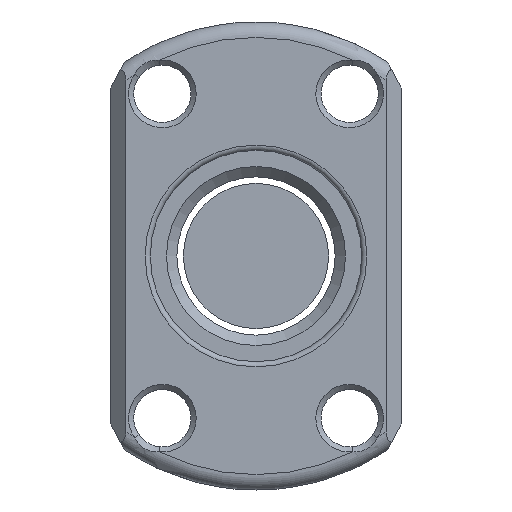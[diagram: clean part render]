
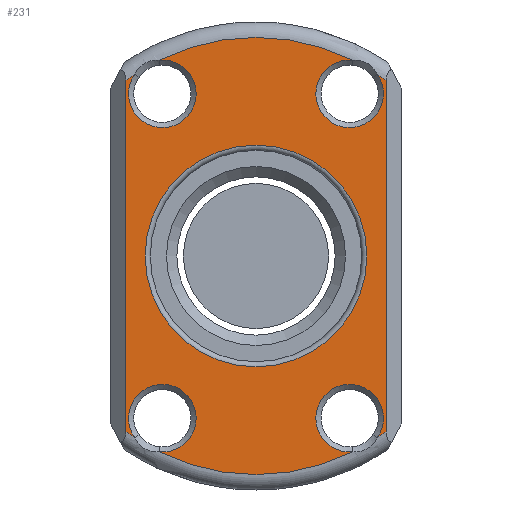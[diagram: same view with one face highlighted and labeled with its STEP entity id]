
A CAD part, front view. The second image highlights one B-rep face of the part: STEP entity #231.
In plain terms, the highlighted planar face has unit normal (0, -1, 0).
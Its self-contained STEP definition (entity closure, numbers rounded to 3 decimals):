
#100=LINE('',#1261,#126);
#101=LINE('',#1273,#127);
#126=VECTOR('',#1045,1.);
#127=VECTOR('',#1056,1.);
#175=PLANE('',#930);
#231=ADVANCED_FACE('',(#296,#297),#175,.T.);
#296=FACE_BOUND('',#335,.T.);
#297=FACE_BOUND('',#336,.T.);
#335=EDGE_LOOP('',(#414));
#336=EDGE_LOOP('',(#415,#416,#417,#418,#419,#420,#421,#422,#423,#424,#425,
#426));
#414=ORIENTED_EDGE('',*,*,#742,.T.);
#415=ORIENTED_EDGE('',*,*,#743,.T.);
#416=ORIENTED_EDGE('',*,*,#744,.T.);
#417=ORIENTED_EDGE('',*,*,#745,.T.);
#418=ORIENTED_EDGE('',*,*,#746,.T.);
#419=ORIENTED_EDGE('',*,*,#747,.T.);
#420=ORIENTED_EDGE('',*,*,#748,.T.);
#421=ORIENTED_EDGE('',*,*,#749,.T.);
#422=ORIENTED_EDGE('',*,*,#750,.T.);
#423=ORIENTED_EDGE('',*,*,#751,.T.);
#424=ORIENTED_EDGE('',*,*,#752,.T.);
#425=ORIENTED_EDGE('',*,*,#753,.T.);
#426=ORIENTED_EDGE('',*,*,#754,.T.);
#660=VERTEX_POINT('',#1253);
#661=VERTEX_POINT('',#1255);
#662=VERTEX_POINT('',#1256);
#663=VERTEX_POINT('',#1258);
#664=VERTEX_POINT('',#1260);
#665=VERTEX_POINT('',#1262);
#666=VERTEX_POINT('',#1264);
#667=VERTEX_POINT('',#1266);
#668=VERTEX_POINT('',#1268);
#669=VERTEX_POINT('',#1270);
#670=VERTEX_POINT('',#1272);
#671=VERTEX_POINT('',#1274);
#672=VERTEX_POINT('',#1276);
#742=EDGE_CURVE('',#660,#660,#864,.T.);
#743=EDGE_CURVE('',#661,#662,#865,.T.);
#744=EDGE_CURVE('',#662,#663,#866,.T.);
#745=EDGE_CURVE('',#663,#664,#867,.T.);
#746=EDGE_CURVE('',#664,#665,#100,.T.);
#747=EDGE_CURVE('',#665,#666,#868,.T.);
#748=EDGE_CURVE('',#666,#667,#869,.T.);
#749=EDGE_CURVE('',#667,#668,#870,.T.);
#750=EDGE_CURVE('',#668,#669,#871,.T.);
#751=EDGE_CURVE('',#669,#670,#872,.T.);
#752=EDGE_CURVE('',#670,#671,#101,.T.);
#753=EDGE_CURVE('',#671,#672,#873,.T.);
#754=EDGE_CURVE('',#672,#661,#874,.T.);
#864=CIRCLE('',#919,10.65);
#865=CIRCLE('',#920,21.);
#866=CIRCLE('',#921,3.25);
#867=CIRCLE('',#922,21.);
#868=CIRCLE('',#923,21.);
#869=CIRCLE('',#924,3.25);
#870=CIRCLE('',#925,21.);
#871=CIRCLE('',#926,3.25);
#872=CIRCLE('',#927,21.);
#873=CIRCLE('',#928,21.);
#874=CIRCLE('',#929,3.25);
#919=AXIS2_PLACEMENT_3D('',#1252,#1037,#1038);
#920=AXIS2_PLACEMENT_3D('',#1254,#1039,#1040);
#921=AXIS2_PLACEMENT_3D('',#1257,#1041,#1042);
#922=AXIS2_PLACEMENT_3D('',#1259,#1043,#1044);
#923=AXIS2_PLACEMENT_3D('',#1263,#1046,#1047);
#924=AXIS2_PLACEMENT_3D('',#1265,#1048,#1049);
#925=AXIS2_PLACEMENT_3D('',#1267,#1050,#1051);
#926=AXIS2_PLACEMENT_3D('',#1269,#1052,#1053);
#927=AXIS2_PLACEMENT_3D('',#1271,#1054,#1055);
#928=AXIS2_PLACEMENT_3D('',#1275,#1057,#1058);
#929=AXIS2_PLACEMENT_3D('',#1277,#1059,#1060);
#930=AXIS2_PLACEMENT_3D('',#1278,#1061,#1062);
#1037=DIRECTION('',(0.,1.,0.));
#1038=DIRECTION('',(0.,0.,-1.));
#1039=DIRECTION('',(0.,-1.,0.));
#1040=DIRECTION('',(0.,0.,-1.));
#1041=DIRECTION('',(0.,1.,0.));
#1042=DIRECTION('',(0.,0.,-1.));
#1043=DIRECTION('',(0.,-1.,0.));
#1044=DIRECTION('',(0.,0.,-1.));
#1045=DIRECTION('',(0.,0.,1.));
#1046=DIRECTION('',(0.,-1.,0.));
#1047=DIRECTION('',(0.,0.,-1.));
#1048=DIRECTION('',(0.,1.,0.));
#1049=DIRECTION('',(0.,0.,-1.));
#1050=DIRECTION('',(0.,-1.,0.));
#1051=DIRECTION('',(0.,0.,-1.));
#1052=DIRECTION('',(0.,1.,0.));
#1053=DIRECTION('',(0.,0.,-1.));
#1054=DIRECTION('',(0.,-1.,0.));
#1055=DIRECTION('',(0.,0.,-1.));
#1056=DIRECTION('',(0.,0.,-1.));
#1057=DIRECTION('',(0.,-1.,0.));
#1058=DIRECTION('',(0.,0.,-1.));
#1059=DIRECTION('',(0.,1.,0.));
#1060=DIRECTION('',(0.,0.,-1.));
#1061=DIRECTION('',(0.,-1.,0.));
#1062=DIRECTION('',(0.,0.,-1.));
#1252=CARTESIAN_POINT('',(0.,0.,0.));
#1253=CARTESIAN_POINT('',(0.,0.,-10.65));
#1254=CARTESIAN_POINT('',(0.,0.,0.));
#1255=CARTESIAN_POINT('',(-9.31,0.,-18.824));
#1256=CARTESIAN_POINT('',(9.31,0.,-18.824));
#1257=CARTESIAN_POINT('',(9.,0.,-15.588));
#1258=CARTESIAN_POINT('',(11.647,0.,-17.474));
#1259=CARTESIAN_POINT('',(0.,0.,0.));
#1260=CARTESIAN_POINT('',(12.5,0.,-16.875));
#1261=CARTESIAN_POINT('',(12.5,0.,15.652));
#1262=CARTESIAN_POINT('',(12.5,0.,16.875));
#1263=CARTESIAN_POINT('',(0.,0.,0.));
#1264=CARTESIAN_POINT('',(11.647,0.,17.474));
#1265=CARTESIAN_POINT('',(9.,0.,15.588));
#1266=CARTESIAN_POINT('',(9.31,0.,18.824));
#1267=CARTESIAN_POINT('',(0.,0.,0.));
#1268=CARTESIAN_POINT('',(-9.31,0.,18.824));
#1269=CARTESIAN_POINT('',(-9.,0.,15.588));
#1270=CARTESIAN_POINT('',(-11.647,0.,17.474));
#1271=CARTESIAN_POINT('',(0.,0.,0.));
#1272=CARTESIAN_POINT('',(-12.5,0.,16.875));
#1273=CARTESIAN_POINT('',(-12.5,0.,-15.652));
#1274=CARTESIAN_POINT('',(-12.5,0.,-16.875));
#1275=CARTESIAN_POINT('',(0.,0.,0.));
#1276=CARTESIAN_POINT('',(-11.647,0.,-17.474));
#1277=CARTESIAN_POINT('',(-9.,0.,-15.588));
#1278=CARTESIAN_POINT('',(0.,0.,0.));
